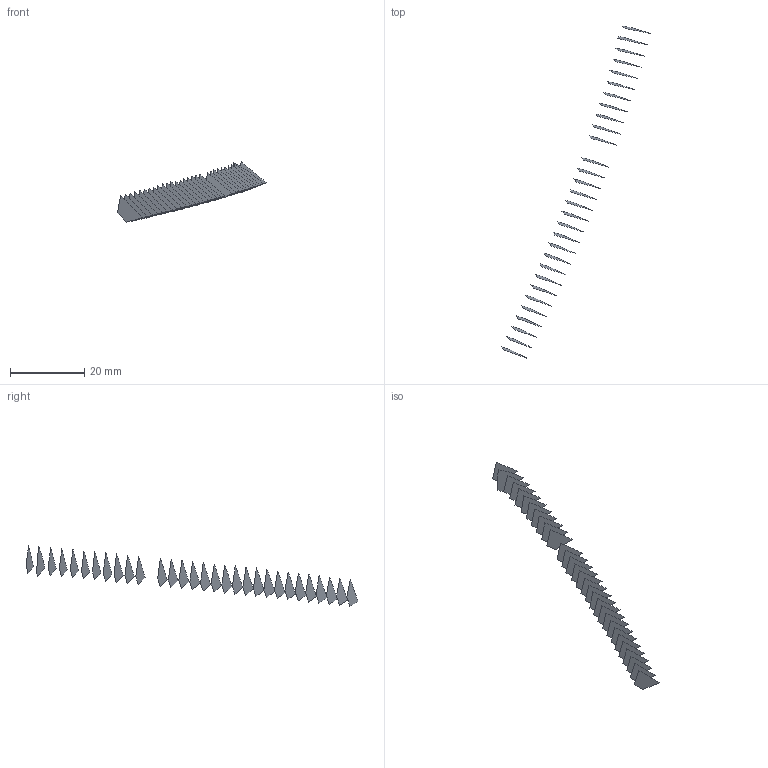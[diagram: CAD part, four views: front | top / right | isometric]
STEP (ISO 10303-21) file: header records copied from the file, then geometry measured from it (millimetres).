
FILE_DESCRIPTION(('FreeCAD Model'),'2;1');
FILE_NAME('Open CASCADE Shape Model','2022-05-22T07:50:30',('FreeCAD'),( 'FreeCAD'),'Open CASCADE STEP processor 7.5','FreeCAD','Unknown');
FILE_SCHEMA(('AUTOMOTIVE_DESIGN { 1 0 10303 214 1 1 1 1 }'));
Length unit declared in the file: millimetre
Products named in the file (31): Open CASCADE STEP translator 7.5 1; Open CASCADE STEP translator 7.5 1.1; Open CASCADE STEP translator 7.5 1.2; Open CASCADE STEP translator 7.5 1.3; Open CASCADE STEP translator 7.5 1.4; Open CASCADE STEP translator 7.5 1.5; Open CASCADE STEP translator 7.5 1.6; Open CASCADE STEP translator 7.5 1.7; Open CASCADE STEP translator 7.5 1.8; Open CASCADE STEP translator 7.5 1.9; Open CASCADE STEP translator 7.5 1.10; Open CASCADE STEP translator 7.5 1.11; Open CASCADE STEP translator 7.5 1.12; Open CASCADE STEP translator 7.5 1.13; Open CASCADE STEP translator 7.5 1.14; Open CASCADE STEP translator 7.5 1.15; Open CASCADE STEP translator 7.5 1.16; Open CASCADE STEP translator 7.5 1.17; Open CASCADE STEP translator 7.5 1.18; Open CASCADE STEP translator 7.5 1.19; Open CASCADE STEP translator 7.5 1.20; Open CASCADE STEP translator 7.5 1.21; Open CASCADE STEP translator 7.5 1.22; Open CASCADE STEP translator 7.5 1.23; Open CASCADE STEP translator 7.5 1.24; Open CASCADE STEP translator 7.5 1.25; Open CASCADE STEP translator 7.5 1.26; Open CASCADE STEP translator 7.5 1.27; Open CASCADE STEP translator 7.5 1.28; Open CASCADE STEP translator 7.5 1.29; Open CASCADE STEP translator 7.5 1.30
Assembly tree (30 placements, depth 2):
  Open CASCADE STEP translator 7.5 1
    Open CASCADE STEP translator 7.5 1.1
    Open CASCADE STEP translator 7.5 1.2
    Open CASCADE STEP translator 7.5 1.3
    Open CASCADE STEP translator 7.5 1.4
    Open CASCADE STEP translator 7.5 1.5
    Open CASCADE STEP translator 7.5 1.6
    Open CASCADE STEP translator 7.5 1.7
    Open CASCADE STEP translator 7.5 1.8
    Open CASCADE STEP translator 7.5 1.9
    Open CASCADE STEP translator 7.5 1.10
    Open CASCADE STEP translator 7.5 1.11
    Open CASCADE STEP translator 7.5 1.12
    Open CASCADE STEP translator 7.5 1.13
    Open CASCADE STEP translator 7.5 1.14
    Open CASCADE STEP translator 7.5 1.15
    Open CASCADE STEP translator 7.5 1.16
    Open CASCADE STEP translator 7.5 1.17
    Open CASCADE STEP translator 7.5 1.18
    Open CASCADE STEP translator 7.5 1.19
    Open CASCADE STEP translator 7.5 1.20
    Open CASCADE STEP translator 7.5 1.21
    Open CASCADE STEP translator 7.5 1.22
    Open CASCADE STEP translator 7.5 1.23
    Open CASCADE STEP translator 7.5 1.24
    Open CASCADE STEP translator 7.5 1.25
    Open CASCADE STEP translator 7.5 1.26
    Open CASCADE STEP translator 7.5 1.27
    Open CASCADE STEP translator 7.5 1.28
    Open CASCADE STEP translator 7.5 1.29
    Open CASCADE STEP translator 7.5 1.30
Bounding box: 40.06 x 89.38 x 16.28 mm (x, y, z)
Surface area: 869.9 mm2 (no closed solid volume)
Topology: 0 solids, 30 shells, 30 faces, 644 edges, 644 vertices
Faces by surface type: bspline 30
Entity records: 9228 total; most frequent: CARTESIAN_POINT 3371, B_SPLINE_CURVE_WITH_KNOTS 1288, ORIENTED_EDGE 644, EDGE_CURVE 644, VERTEX_POINT 644, SURFACE_CURVE 644, PCURVE 644, DEFINITIONAL_REPRESENTATION 644
